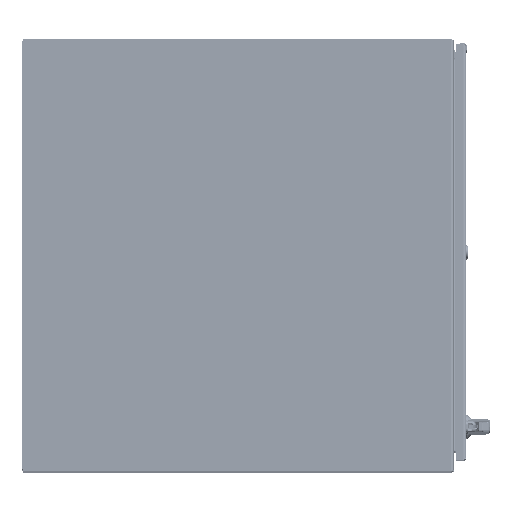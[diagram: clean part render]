
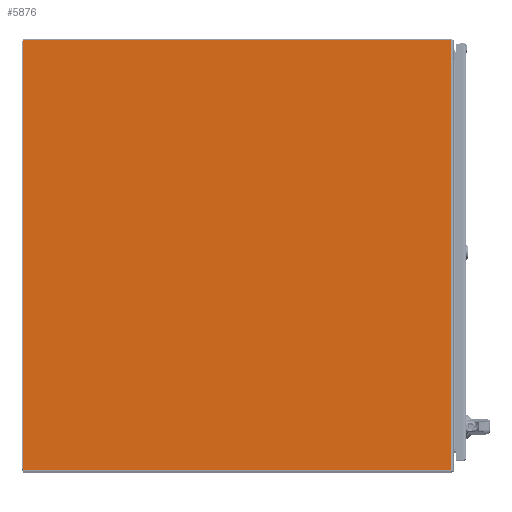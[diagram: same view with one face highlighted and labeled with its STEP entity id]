
A CAD part, top view. The second image highlights one B-rep face of the part: STEP entity #5876.
In plain terms, the highlighted planar face has unit normal (0, 0, 1) as drawn and (0, 1, 0) by its records, which use the part's own axes.
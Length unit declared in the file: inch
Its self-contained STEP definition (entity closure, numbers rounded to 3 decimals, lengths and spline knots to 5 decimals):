
#4945=CARTESIAN_POINT('',(-35.823,0.,-17.823));
#4946=DIRECTION('',(0.,1.,0.));
#4947=DIRECTION('',(0.,0.,-1.));
#4948=AXIS2_PLACEMENT_3D('',#4945,#4946,#4947);
#4953=CARTESIAN_POINT('',(-35.823,0.,17.823));
#4954=DIRECTION('',(0.,1.,0.));
#4955=DIRECTION('',(-1.,0.,0.));
#4956=AXIS2_PLACEMENT_3D('',#4953,#4954,#4955);
#4968=DIRECTION('',(0.,0.,-1.));
#4969=VECTOR('',#4968,35.646);
#4970=CARTESIAN_POINT('',(-35.948,0.,17.823));
#4971=LINE('',#4970,#4969);
#4996=DIRECTION('',(-1.,0.,0.));
#4997=VECTOR('',#4996,35.5765);
#4998=CARTESIAN_POINT('',(-0.2465,0.,17.948));
#4999=LINE('',#4998,#4997);
#5039=DIRECTION('',(0.,0.,1.));
#5040=VECTOR('',#5039,35.896);
#5041=CARTESIAN_POINT('',(-0.2465,0.,-17.948));
#5042=LINE('',#5041,#5040);
#5133=DIRECTION('',(-1.,0.,0.));
#5134=VECTOR('',#5133,35.5765);
#5135=CARTESIAN_POINT('',(-0.2465,0.,-17.948));
#5136=LINE('',#5135,#5134);
#5733=CARTESIAN_POINT('',(-0.2465,0.,17.948));
#5734=VERTEX_POINT('',#5733);
#5735=CARTESIAN_POINT('',(-0.2465,0.,-17.948));
#5736=VERTEX_POINT('',#5735);
#5793=CARTESIAN_POINT('',(-35.823,0.,-17.948));
#5794=CARTESIAN_POINT('',(-35.948,0.,-17.823));
#5795=VERTEX_POINT('',#5793);
#5796=VERTEX_POINT('',#5794);
#5801=CARTESIAN_POINT('',(-35.948,0.,17.823));
#5802=CARTESIAN_POINT('',(-35.823,0.,17.948));
#5803=VERTEX_POINT('',#5801);
#5804=VERTEX_POINT('',#5802);
#5857=CARTESIAN_POINT('',(0.,0.,17.948));
#5858=DIRECTION('',(0.,1.,0.));
#5859=DIRECTION('',(-1.,0.,0.));
#5860=AXIS2_PLACEMENT_3D('',#5857,#5858,#5859);
#5861=PLANE('',#5860);
#5863=ORIENTED_EDGE('',*,*,#5862,.F.);
#5865=ORIENTED_EDGE('',*,*,#5864,.F.);
#5867=ORIENTED_EDGE('',*,*,#5866,.T.);
#5869=ORIENTED_EDGE('',*,*,#5868,.T.);
#5871=ORIENTED_EDGE('',*,*,#5870,.F.);
#5873=ORIENTED_EDGE('',*,*,#5872,.T.);
#5874=EDGE_LOOP('',(#5863,#5865,#5867,#5869,#5871,#5873));
#5875=FACE_OUTER_BOUND('',#5874,.F.);
#4949=CIRCLE('',#4948,0.125);
#4957=CIRCLE('',#4956,0.125);
#5862=EDGE_CURVE('',#5795,#5796,#4949,.T.);
#5864=EDGE_CURVE('',#5736,#5795,#5136,.T.);
#5866=EDGE_CURVE('',#5736,#5734,#5042,.T.);
#5868=EDGE_CURVE('',#5734,#5804,#4999,.T.);
#5870=EDGE_CURVE('',#5803,#5804,#4957,.T.);
#5872=EDGE_CURVE('',#5803,#5796,#4971,.T.);
#5876=ADVANCED_FACE('',(#5875),#5861,.T.);
